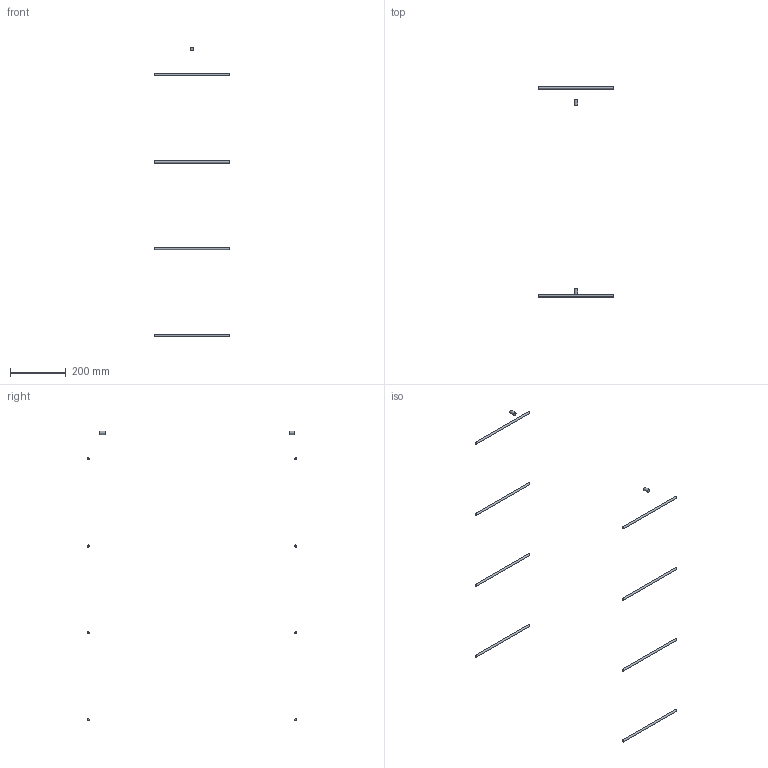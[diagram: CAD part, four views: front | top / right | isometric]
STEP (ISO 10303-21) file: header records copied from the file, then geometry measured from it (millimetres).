
FILE_DESCRIPTION(('Open CASCADE Model'),'2;1');
FILE_NAME('Open CASCADE Shape Model','2026-11-05T14:32:42',('Author'),( 'Open CASCADE'),'Open CASCADE STEP processor 7.9','Open CASCADE 7.9' ,'Unknown');
FILE_SCHEMA(('AUTOMOTIVE_DESIGN { 1 0 10303 214 1 1 1 1 }'));
Length unit declared in the file: millimetre
Products named in the file (11): C05_SHELL_MATING_REFERENCES_LOCAL; TIE_ROD_HAIRPIN_Z85.0; TIE_ROD_HAIRPIN_Z397.0; TIE_ROD_HAIRPIN_Z709.0; TIE_ROD_HAIRPIN_Z1023.0; TIE_ROD_HEADER_Z85.0; TIE_ROD_HEADER_Z397.0; TIE_ROD_HEADER_Z709.0; TIE_ROD_HEADER_Z1023.0; REMOVABLE_TOP_PIN_0; REMOVABLE_TOP_PIN_1
Assembly tree (10 placements, depth 2):
  C05_SHELL_MATING_REFERENCES_LOCAL
    TIE_ROD_HAIRPIN_Z85.0
    TIE_ROD_HAIRPIN_Z397.0
    TIE_ROD_HAIRPIN_Z709.0
    TIE_ROD_HAIRPIN_Z1023.0
    TIE_ROD_HEADER_Z85.0
    TIE_ROD_HEADER_Z397.0
    TIE_ROD_HEADER_Z709.0
    TIE_ROD_HEADER_Z1023.0
    REMOVABLE_TOP_PIN_0
    REMOVABLE_TOP_PIN_1
Bounding box: 270 x 755 x 1041 mm (x, y, z)
Volume: 113097.3 mm3; surface area: 57051.3 mm2
Topology: 10 solids, 10 shells, 30 faces, 30 edges, 20 vertices
Faces by surface type: plane 20, cylinder 10
Full cylindrical faces by diameter (mm): 8 x8, 12 x2
Entity records: 1197 total; most frequent: DIRECTION 192, CARTESIAN_POINT 151, AXIS2_PLACEMENT_3D 61, ORIENTED_EDGE 60, PCURVE 60, DEFINITIONAL_REPRESENTATION 60, LINE 50, VECTOR 50
